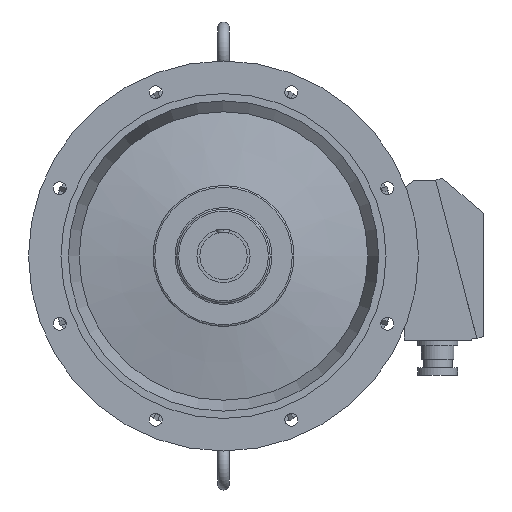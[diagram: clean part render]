
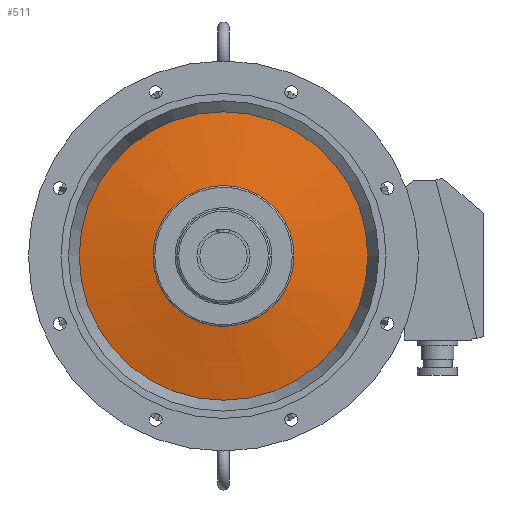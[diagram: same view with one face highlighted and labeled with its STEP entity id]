
A CAD part, front view. The second image highlights one B-rep face of the part: STEP entity #511.
In plain terms, the highlighted conical face has half-angle 79.949 degrees and reference radius 119.265 mm.
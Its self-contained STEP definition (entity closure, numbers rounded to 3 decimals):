
#511 = ADVANCED_FACE( '', ( #1487, #1488 ), #1489, .T. );
#1487 = FACE_OUTER_BOUND( '', #2543, .T. );
#1488 = FACE_BOUND( '', #2544, .T. );
#1489 = CONICAL_SURFACE( '', #2545, 119.265, 1.395 );
#2543 = EDGE_LOOP( '', ( #6358 ) );
#2544 = EDGE_LOOP( '', ( #6359 ) );
#2545 = AXIS2_PLACEMENT_3D( '', #6360, #6361, #6362 );
#6358 = ORIENTED_EDGE( '', *, *, #7930, .T. );
#6359 = ORIENTED_EDGE( '', *, *, #7929, .F. );
#6360 = CARTESIAN_POINT( '', ( 0., 212.516, 0. ) );
#6361 = DIRECTION( '', ( 0., 1., 0. ) );
#6362 = DIRECTION( '', ( -1., 0., 0. ) );
#7929 = EDGE_CURVE( '', #10077, #10077, #10078, .T. );
#7930 = EDGE_CURVE( '', #10079, #10079, #10080, .T. );
#10077 = VERTEX_POINT( '', #14438 );
#10078 = CIRCLE( '', #14439, 119.265 );
#10079 = VERTEX_POINT( '', #14440 );
#10080 = CIRCLE( '', #14441, 244.069 );
#14438 = CARTESIAN_POINT( '', ( 119.265, 212.516, 0. ) );
#14439 = AXIS2_PLACEMENT_3D( '', #16150, #16151, #16152 );
#14440 = CARTESIAN_POINT( '', ( 244.069, 234.637, 0. ) );
#14441 = AXIS2_PLACEMENT_3D( '', #16153, #16154, #16155 );
#16150 = CARTESIAN_POINT( '', ( 0., 212.516, 0. ) );
#16151 = DIRECTION( '', ( 0., -1., 0. ) );
#16152 = DIRECTION( '', ( 1., 0., 0. ) );
#16153 = CARTESIAN_POINT( '', ( 0., 234.637, 0. ) );
#16154 = DIRECTION( '', ( 0., -1., 0. ) );
#16155 = DIRECTION( '', ( 1., 0., 0. ) );
